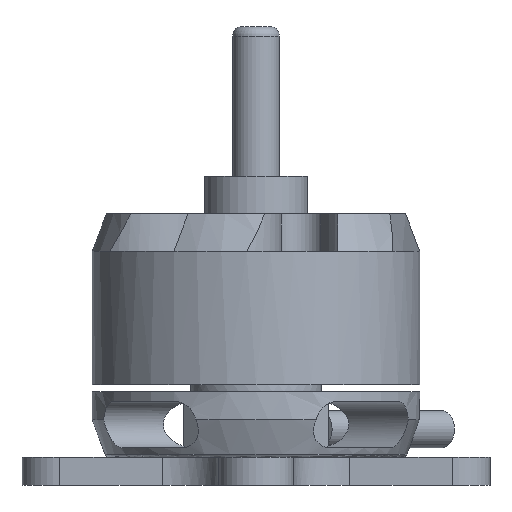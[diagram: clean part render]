
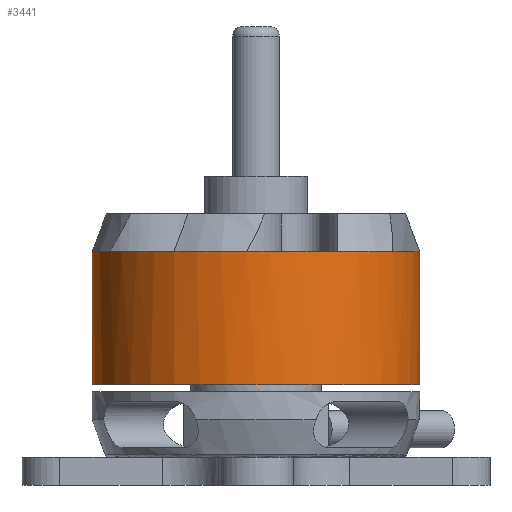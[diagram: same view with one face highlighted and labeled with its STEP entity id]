
A CAD part, front view. The second image highlights one B-rep face of the part: STEP entity #3441.
In plain terms, the highlighted cylindrical face has radius 17.5 mm (diameter 35 mm), a full revolution.
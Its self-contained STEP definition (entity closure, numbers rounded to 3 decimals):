
#299=FACE_OUTER_BOUND('',#515,.T.);
#515=EDGE_LOOP('',(#3038,#3039,#3040,#3041,#3042,#3043,#3044,#3045,#3046,
#3047,#3048,#3049,#3050,#3051,#3052,#3053));
#640=CIRCLE('',#3684,17.5);
#641=CIRCLE('',#3686,17.5);
#642=CIRCLE('',#3687,17.5);
#643=CIRCLE('',#3689,17.5);
#647=CIRCLE('',#3697,17.5);
#648=CIRCLE('',#3699,17.5);
#652=CIRCLE('',#3707,17.5);
#653=CIRCLE('',#3709,17.5);
#657=CIRCLE('',#3717,17.5);
#658=CIRCLE('',#3719,17.5);
#662=CIRCLE('',#3727,17.5);
#663=CIRCLE('',#3729,17.5);
#667=CIRCLE('',#3737,17.5);
#733=CIRCLE('',#3844,17.5);
#1053=LINE('',#9963,#1216);
#1216=VECTOR('',#4760,17.5);
#1456=VERTEX_POINT('',#9568);
#1459=VERTEX_POINT('',#9583);
#1460=VERTEX_POINT('',#9594);
#1461=VERTEX_POINT('',#9601);
#1462=VERTEX_POINT('',#9605);
#1465=VERTEX_POINT('',#9622);
#1466=VERTEX_POINT('',#9633);
#1469=VERTEX_POINT('',#9650);
#1470=VERTEX_POINT('',#9661);
#1473=VERTEX_POINT('',#9678);
#1474=VERTEX_POINT('',#9689);
#1477=VERTEX_POINT('',#9706);
#1478=VERTEX_POINT('',#9717);
#1550=VERTEX_POINT('',#9962);
#1903=EDGE_CURVE('',#1459,#1456,#640,.T.);
#1905=EDGE_CURVE('',#1460,#1461,#641,.T.);
#1906=EDGE_CURVE('',#1461,#1459,#642,.T.);
#1907=EDGE_CURVE('',#1456,#1462,#643,.T.);
#1915=EDGE_CURVE('',#1465,#1460,#647,.T.);
#1917=EDGE_CURVE('',#1466,#1465,#648,.T.);
#1924=EDGE_CURVE('',#1469,#1466,#652,.T.);
#1926=EDGE_CURVE('',#1470,#1469,#653,.T.);
#1933=EDGE_CURVE('',#1473,#1470,#657,.T.);
#1935=EDGE_CURVE('',#1474,#1473,#658,.T.);
#1942=EDGE_CURVE('',#1477,#1474,#662,.T.);
#1944=EDGE_CURVE('',#1478,#1477,#663,.T.);
#1950=EDGE_CURVE('',#1462,#1478,#667,.T.);
#2066=EDGE_CURVE('',#1461,#1550,#1053,.T.);
#2067=EDGE_CURVE('',#1550,#1550,#733,.T.);
#3038=ORIENTED_EDGE('',*,*,#1944,.F.);
#3039=ORIENTED_EDGE('',*,*,#1950,.F.);
#3040=ORIENTED_EDGE('',*,*,#1907,.F.);
#3041=ORIENTED_EDGE('',*,*,#1903,.F.);
#3042=ORIENTED_EDGE('',*,*,#1906,.F.);
#3043=ORIENTED_EDGE('',*,*,#2066,.T.);
#3044=ORIENTED_EDGE('',*,*,#2067,.T.);
#3045=ORIENTED_EDGE('',*,*,#2066,.F.);
#3046=ORIENTED_EDGE('',*,*,#1905,.F.);
#3047=ORIENTED_EDGE('',*,*,#1915,.F.);
#3048=ORIENTED_EDGE('',*,*,#1917,.F.);
#3049=ORIENTED_EDGE('',*,*,#1924,.F.);
#3050=ORIENTED_EDGE('',*,*,#1926,.F.);
#3051=ORIENTED_EDGE('',*,*,#1933,.F.);
#3052=ORIENTED_EDGE('',*,*,#1935,.F.);
#3053=ORIENTED_EDGE('',*,*,#1942,.F.);
#3258=CYLINDRICAL_SURFACE('',#3843,17.5);
#3441=ADVANCED_FACE('',(#299),#3258,.T.);
#3684=AXIS2_PLACEMENT_3D('',#9592,#4380,#4381);
#3686=AXIS2_PLACEMENT_3D('',#9602,#4384,#4385);
#3687=AXIS2_PLACEMENT_3D('',#9603,#4386,#4387);
#3689=AXIS2_PLACEMENT_3D('',#9606,#4390,#4391);
#3697=AXIS2_PLACEMENT_3D('',#9631,#4408,#4409);
#3699=AXIS2_PLACEMENT_3D('',#9640,#4412,#4413);
#3707=AXIS2_PLACEMENT_3D('',#9659,#4430,#4431);
#3709=AXIS2_PLACEMENT_3D('',#9668,#4434,#4435);
#3717=AXIS2_PLACEMENT_3D('',#9687,#4452,#4453);
#3719=AXIS2_PLACEMENT_3D('',#9696,#4456,#4457);
#3727=AXIS2_PLACEMENT_3D('',#9715,#4474,#4475);
#3729=AXIS2_PLACEMENT_3D('',#9724,#4478,#4479);
#3737=AXIS2_PLACEMENT_3D('',#9736,#4496,#4497);
#3843=AXIS2_PLACEMENT_3D('',#9961,#4758,#4759);
#3844=AXIS2_PLACEMENT_3D('',#9964,#4761,#4762);
#4380=DIRECTION('center_axis',(0.,0.,1.));
#4381=DIRECTION('ref_axis',(1.,0.,0.));
#4384=DIRECTION('center_axis',(0.,0.,1.));
#4385=DIRECTION('ref_axis',(1.,0.,0.));
#4386=DIRECTION('center_axis',(0.,0.,1.));
#4387=DIRECTION('ref_axis',(1.,0.,0.));
#4390=DIRECTION('center_axis',(0.,0.,1.));
#4391=DIRECTION('ref_axis',(1.,0.,0.));
#4408=DIRECTION('center_axis',(0.,0.,1.));
#4409=DIRECTION('ref_axis',(1.,0.,0.));
#4412=DIRECTION('center_axis',(0.,0.,1.));
#4413=DIRECTION('ref_axis',(1.,0.,0.));
#4430=DIRECTION('center_axis',(0.,0.,1.));
#4431=DIRECTION('ref_axis',(1.,0.,0.));
#4434=DIRECTION('center_axis',(0.,0.,1.));
#4435=DIRECTION('ref_axis',(1.,0.,0.));
#4452=DIRECTION('center_axis',(0.,0.,1.));
#4453=DIRECTION('ref_axis',(1.,0.,0.));
#4456=DIRECTION('center_axis',(0.,0.,1.));
#4457=DIRECTION('ref_axis',(1.,0.,0.));
#4474=DIRECTION('center_axis',(0.,0.,1.));
#4475=DIRECTION('ref_axis',(1.,0.,0.));
#4478=DIRECTION('center_axis',(0.,0.,1.));
#4479=DIRECTION('ref_axis',(1.,0.,0.));
#4496=DIRECTION('center_axis',(0.,0.,1.));
#4497=DIRECTION('ref_axis',(1.,0.,0.));
#4758=DIRECTION('center_axis',(0.,0.,1.));
#4759=DIRECTION('ref_axis',(1.,0.,0.));
#4760=DIRECTION('',(0.,0.,-1.));
#4761=DIRECTION('center_axis',(0.,0.,1.));
#4762=DIRECTION('ref_axis',(1.,0.,0.));
#9568=CARTESIAN_POINT('',(-8.779,-15.139,22.));
#9583=CARTESIAN_POINT('',(-15.636,-7.859,22.));
#9592=CARTESIAN_POINT('Origin',(0.,0.,22.));
#9594=CARTESIAN_POINT('',(-17.5,0.034,22.));
#9601=CARTESIAN_POINT('',(-17.5,0.,22.));
#9602=CARTESIAN_POINT('Origin',(0.,0.,22.));
#9603=CARTESIAN_POINT('Origin',(0.,0.,22.));
#9605=CARTESIAN_POINT('',(-1.011,-17.471,22.));
#9606=CARTESIAN_POINT('Origin',(0.,0.,22.));
#9622=CARTESIAN_POINT('',(-14.624,9.611,22.));
#9631=CARTESIAN_POINT('Origin',(0.,0.,22.));
#9633=CARTESIAN_POINT('',(-8.721,15.172,22.));
#9640=CARTESIAN_POINT('Origin',(0.,0.,22.));
#9650=CARTESIAN_POINT('',(1.011,17.471,22.));
#9659=CARTESIAN_POINT('Origin',(0.,0.,22.));
#9661=CARTESIAN_POINT('',(8.779,15.139,22.));
#9668=CARTESIAN_POINT('Origin',(0.,0.,22.));
#9678=CARTESIAN_POINT('',(15.636,7.859,22.));
#9687=CARTESIAN_POINT('Origin',(0.,0.,22.));
#9689=CARTESIAN_POINT('',(17.5,-0.034,22.));
#9696=CARTESIAN_POINT('Origin',(0.,0.,22.));
#9706=CARTESIAN_POINT('',(14.624,-9.611,22.));
#9715=CARTESIAN_POINT('Origin',(0.,0.,22.));
#9717=CARTESIAN_POINT('',(8.721,-15.172,22.));
#9724=CARTESIAN_POINT('Origin',(0.,0.,22.));
#9736=CARTESIAN_POINT('Origin',(0.,0.,22.));
#9961=CARTESIAN_POINT('Origin',(0.,0.,0.));
#9962=CARTESIAN_POINT('',(-17.5,0.,7.75));
#9963=CARTESIAN_POINT('',(-17.5,0.,0.));
#9964=CARTESIAN_POINT('Origin',(0.,0.,7.75));
